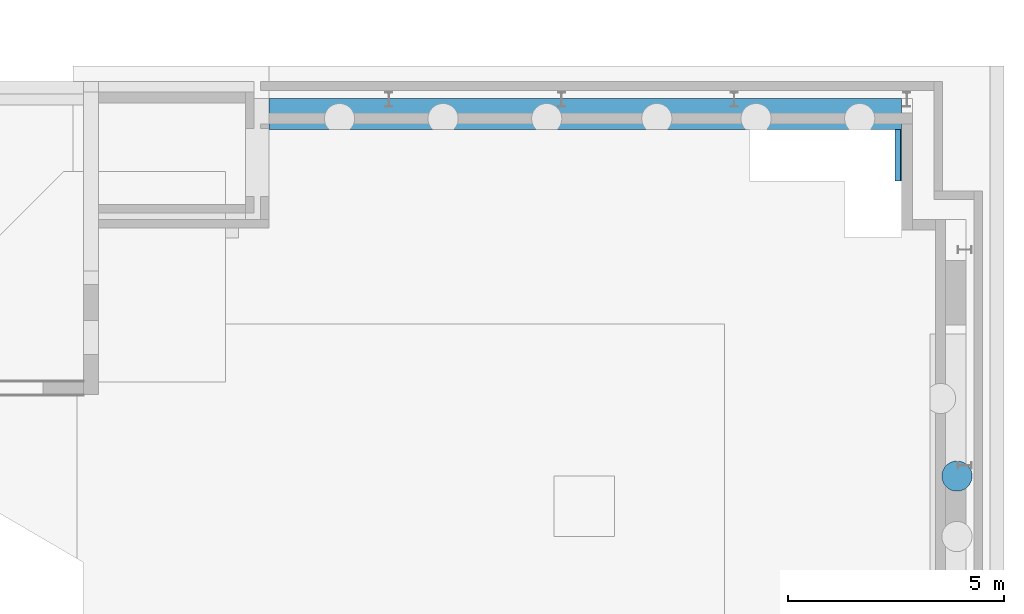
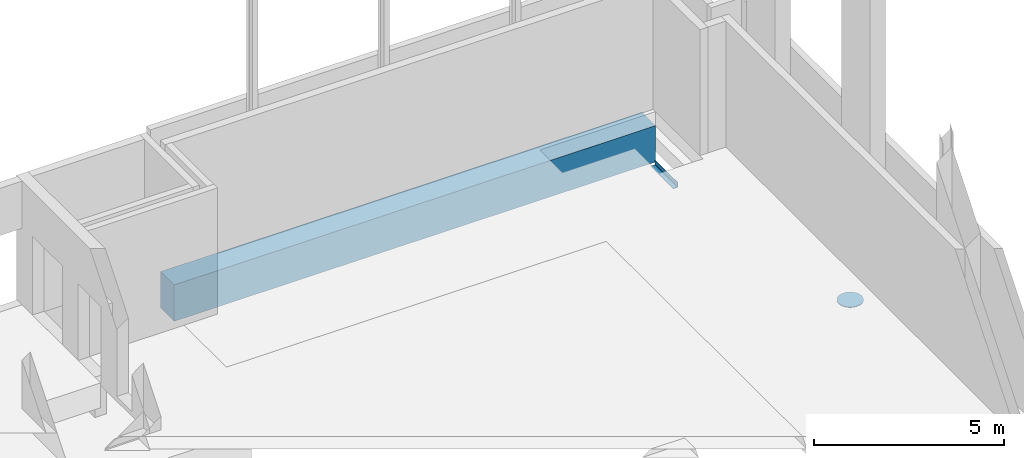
# One storey, part 18 of 34: 3 beams.
"""IFC2X3 building model written with IfcOpenShell, lengths in millimetres."""

from ifc_helpers import new_model, entity, si_unit, converted_unit, derived_unit, direction, frame, frame_2d, origin, origin_2d_with_axis, place, context, subcontext, project, spatial, polyline, circle_curve, parameter, trimmed, segment, composite_curve, rectangle, circle, outline, extrude, clip, halfspace, source, transform, mapped, material, type_object, type_shapes, element, save


model = new_model("IFC2X3")

# Units and contexts
model_context = context("Model", 3, precision=0.01, world=origin(), true_north=direction((6.12303176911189e-17, 1.0)))
body_context = subcontext(model_context, "Body", "Model", "MODEL_VIEW")
ifc_project = project(units=[si_unit("LENGTHUNIT", "METRE", prefix="MILLI"), si_unit("AREAUNIT", "SQUARE_METRE", prefix="MILLI"), si_unit("VOLUMEUNIT", "CUBIC_METRE"), converted_unit("PLANEANGLEUNIT", "DEGREE", entity("IfcRatioMeasure", 0.0174532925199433), si_unit("PLANEANGLEUNIT", "RADIAN"), dimensions=[0, 0, 0, 0, 0, 0, 0]), si_unit("MASSUNIT", "GRAM", prefix="KILO"), derived_unit("MASSDENSITYUNIT", [(si_unit("MASSUNIT", "GRAM", prefix="KILO"), 1), (si_unit("LENGTHUNIT", "METRE"), -3)]), derived_unit("MOMENTOFINERTIAUNIT", [(si_unit("LENGTHUNIT", "METRE"), 4)]), si_unit("TIMEUNIT", "SECOND"), si_unit("FREQUENCYUNIT", "HERTZ"), si_unit("THERMODYNAMICTEMPERATUREUNIT", "DEGREE_CELSIUS"), derived_unit("THERMALTRANSMITTANCEUNIT", [(si_unit("MASSUNIT", "GRAM", prefix="KILO"), 1), (si_unit("THERMODYNAMICTEMPERATUREUNIT", "KELVIN"), -1), (si_unit("TIMEUNIT", "SECOND"), -3)]), derived_unit("VOLUMETRICFLOWRATEUNIT", [(si_unit("LENGTHUNIT", "METRE"), 3), (si_unit("TIMEUNIT", "SECOND"), -1)]), si_unit("ELECTRICCURRENTUNIT", "AMPERE"), si_unit("ELECTRICVOLTAGEUNIT", "VOLT"), si_unit("POWERUNIT", "WATT"), si_unit("FORCEUNIT", "NEWTON", prefix="KILO"), si_unit("ILLUMINANCEUNIT", "LUX"), si_unit("LUMINOUSFLUXUNIT", "LUMEN"), si_unit("LUMINOUSINTENSITYUNIT", "CANDELA"), derived_unit("USERDEFINED", [(si_unit("MASSUNIT", "GRAM", prefix="KILO"), -1), (si_unit("LENGTHUNIT", "METRE"), -2), (si_unit("TIMEUNIT", "SECOND"), 3), (si_unit("LUMINOUSFLUXUNIT", "LUMEN"), 1)]), derived_unit("LINEARVELOCITYUNIT", [(si_unit("LENGTHUNIT", "METRE"), 1), (si_unit("TIMEUNIT", "SECOND"), -1)]), si_unit("PRESSUREUNIT", "PASCAL"), derived_unit("USERDEFINED", [(si_unit("LENGTHUNIT", "METRE"), -2), (si_unit("MASSUNIT", "GRAM", prefix="KILO"), 1), (si_unit("TIMEUNIT", "SECOND"), -2)]), derived_unit("LINEARFORCEUNIT", [(si_unit("MASSUNIT", "GRAM", prefix="KILO"), 1), (si_unit("LENGTHUNIT", "METRE"), 1), (si_unit("TIMEUNIT", "SECOND"), -2), (si_unit("LENGTHUNIT", "METRE"), -1)]), derived_unit("PLANARFORCEUNIT", [(si_unit("MASSUNIT", "GRAM", prefix="KILO"), 1), (si_unit("LENGTHUNIT", "METRE"), 1), (si_unit("TIMEUNIT", "SECOND"), -2), (si_unit("LENGTHUNIT", "METRE"), -2)])], contexts=[model_context])

# Site, building, storey
site_placement = place(None, origin())
site = spatial("IfcSite", under=ifc_project, at=site_placement, Name="Theater aan de Parade", CompositionType="ELEMENT")
building_placement = place(site_placement, origin())
building = spatial("IfcBuilding", under=site, at=building_placement, Name="Theater aan de Parade", CompositionType="ELEMENT")
storey_placement = place(building_placement, frame((0.0, 0.0, 3.49116848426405e-09)))
storey = spatial("IfcBuildingStorey", under=building, at=storey_placement, Name="00 begane grond", CompositionType="ELEMENT", Elevation=3.49116848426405e-09)

# Beams
ifc_material_1 = material(Name="00_PBT_MAT_staal_S355")
beam_type_1 = type_object("IfcBeamType", Name="28_PBT_SF_staal_L-profiel:S355_L150x150x15", PredefinedType="NOTDEFINED")
beam_1_placement = place(storey_placement, frame((86262.6683175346, 48697.0, -3.2561863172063e-09), z_axis=(0.0, 0.0, 1.0), x_axis=(0.0, -1.0, 0.0)))
element("IfcBeam", 1, at=beam_1_placement, inside=storey, type_object=beam_type_1, material=ifc_material_1, Name="28_PBT_SF_staal_L-profiel:S355_L150x150x15", ObjectType="28_PBT_SF_staal_L-profiel:S355_L150x150x15", context=body_context, shape_type="SweptSolid", body=[
    extrude(outline(composite_curve([segment(polyline([(49.6666666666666, -93.3333333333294), (56.6666666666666, -93.3333333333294)]), True, "CONTINUOUS"), segment(polyline([(56.6666666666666, -93.3333333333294), (56.6666666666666, 56.6666666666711)]), True, "CONTINUOUS"), segment(polyline([(56.6666666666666, 56.6666666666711), (-93.3333333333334, 56.6666666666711)]), True, "CONTINUOUS"), segment(polyline([(-93.3333333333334, 56.6666666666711), (-93.3333333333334, 49.6666666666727)]), True, "CONTINUOUS"), segment(trimmed(circle_curve(frame_2d((-85.3333333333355, 49.6666666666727), x_axis=(-1.0, 0.0)), 7.99999999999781), [parameter(0.0)], [parameter(90.0000000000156)], True, "PARAMETER"), True, "CONTINUOUS"), segment(polyline([(-85.3333333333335, 41.6666666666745), (25.6666666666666, 41.6666666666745)]), True, "CONTINUOUS"), segment(trimmed(circle_curve(frame_2d((25.6666666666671, 25.6666666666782), x_axis=(0.0, 1.0)), 15.9999999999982), [parameter(269.999999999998)], [parameter(0.0)], True, "PARAMETER"), False, "CONTINUOUS"), segment(polyline([(41.6666666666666, 25.6666666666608), (41.6666666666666, -85.3333333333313)]), True, "CONTINUOUS"), segment(trimmed(circle_curve(frame_2d((49.6666666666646, -85.3333333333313), x_axis=(-1.0, 0.0)), 7.99999999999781), [parameter(0.0)], [parameter(90.0000000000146)], True, "PARAMETER"), True, "CONTINUOUS")], self_intersect=False)), frame((0.0, -14.1666666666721, -773.333333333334), z_axis=(1.0, 0.0, 0.0), x_axis=(0.0, 0.0, -1.0)), (0.0, 0.0, 1.0), 1195.00000000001),
])
ifc_material_2 = material(Name="00_PBT_MAT_beton t.p.g._C30/37")
beam_type_2 = type_object("IfcBeamType", Name="28_PBT_SF_betonbalk:C30/37_715x1620", PredefinedType="NOTDEFINED")
beam_2_placement = place(storey_placement, frame((86430.1683175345, 48697.0, -3.02648312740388e-09), z_axis=(0.0, 0.0, 1.0), x_axis=(-1.0, 0.0, 0.0)))
element("IfcBeam", 2, at=beam_2_placement, inside=storey, type_object=beam_type_2, material=ifc_material_2, Name="28_PBT_SF_betonbalk:C30/37_715x1620", ObjectType="28_PBT_SF_betonbalk:C30/37_715x1620", context=body_context, shape_type="SweptSolid", body=[
    extrude(rectangle(XDim=1170.00000000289, YDim=715.000000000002, at=frame_2d((5.6843418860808e-14, -4.76347850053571e-11), x_axis=(1.0, 0.0))), frame((125.0, -357.500000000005, -155.0), z_axis=(1.0, 0.0, 0.0), x_axis=(0.0, 0.0, -1.0)), (0.0, 0.0, 1.0), 14648.1683175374),
])
beam_type_3 = type_object("IfcBeamType", Name="28_PBT_SF_staal_krans:28_PBT_SF_staal_krans_d=700_323.9", PredefinedType="BEAM", material=ifc_material_1)
shared_shape = source(origin(), body_context, "Body", "SweptSolid", [
    clip(extrude(rectangle(XDim=150.000000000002, YDim=15.0, at=frame_2d((-7.105427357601e-15, -4.44089209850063e-15), x_axis=(1.0, 0.0))), frame((-118.475000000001, -205.204719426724, -175.0), z_axis=(0.0, 0.0, 1.0), x_axis=(0.499999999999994, 0.866025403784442, 0.0)), (0.0, 0.0, 1.0), 149.999999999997), halfspace(frame((-162.470190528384, -266.406624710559, -75.0), z_axis=(-0.277350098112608, -0.480384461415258, -0.832050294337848), x_axis=(0.866025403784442, -0.499999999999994, 0.0)), False)),
    clip(extrude(rectangle(XDim=150.000000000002, YDim=15.0, at=origin_2d_with_axis()), frame((118.474999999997, 205.204719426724, -175.0), z_axis=(0.0, 0.0, 1.0), x_axis=(0.499999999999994, 0.866025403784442, 0.0)), (0.0, 0.0, 1.0), 149.999999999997), halfspace(frame((149.479809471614, 273.906624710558, -75.0), z_axis=(0.277350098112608, 0.480384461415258, -0.832050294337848), x_axis=(0.866025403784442, -0.499999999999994, 0.0)), False)),
    clip(extrude(rectangle(XDim=150.000000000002, YDim=15.0, at=frame_2d((2.1316282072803e-14, 3.99680288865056e-15), x_axis=(1.0, 0.0))), frame((-118.475, 205.204719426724, -175.0), z_axis=(0.0, 0.0, 1.0), x_axis=(-0.499999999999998, 0.86602540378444, 0.0)), (0.0, 0.0, 1.0), 149.999999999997), halfspace(frame((-162.470190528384, 266.406624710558, -75.0), z_axis=(-0.277350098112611, 0.480384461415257, -0.832050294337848), x_axis=(0.86602540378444, 0.499999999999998, 0.0)), False)),
    clip(extrude(rectangle(XDim=150.000000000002, YDim=15.0, at=frame_2d((-2.1316282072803e-14, 4.44089209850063e-15), x_axis=(1.0, 0.0))), frame((118.475, -205.204719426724, -175.0), z_axis=(0.0, 0.0, 1.0), x_axis=(-0.499999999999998, 0.86602540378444, 0.0)), (0.0, 0.0, 1.0), 149.999999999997), halfspace(frame((149.479809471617, -273.906624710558, -75.0), z_axis=(0.277350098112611, -0.480384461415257, -0.832050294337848), x_axis=(0.86602540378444, 0.499999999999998, 0.0)), False)),
    clip(extrude(rectangle(XDim=15.0, YDim=150.000000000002, at=frame_2d((0.0, -1.4210854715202e-14), x_axis=(1.0, 0.0))), frame((236.950000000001, 0.0, -175.0), z_axis=(0.0, 0.0, 1.0), x_axis=(0.0, -1.0, 0.0)), (0.0, 0.0, 1.0), 149.999999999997), halfspace(frame((311.950000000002, -7.5, -75.0), z_axis=(0.554700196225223, 0.0, -0.832050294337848), x_axis=(0.0, 1.0, 0.0)), False)),
    clip(extrude(rectangle(XDim=15.0, YDim=150.000000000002, at=frame_2d((0.0, 1.4210854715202e-14), x_axis=(1.0, 0.0))), frame((-236.950000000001, 0.0, -175.0), z_axis=(0.0, 0.0, 1.0), x_axis=(0.0, -1.0, 0.0)), (0.0, 0.0, 1.0), 149.999999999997), halfspace(frame((-311.950000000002, -7.5, -75.0), z_axis=(-0.554700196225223, 0.0, -0.832050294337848), x_axis=(0.0, 1.0, 0.0)), False)),
    extrude(circle(Radius=350.0, at=frame_2d((6.76791955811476e-14, 5.85105723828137e-13), x_axis=(1.0, 0.0))), frame((0.0, 0.0, -25.0), z_axis=(0.0, 0.0, 1.0), x_axis=(-1.0, 0.0, 0.0)), (0.0, 0.0, 1.0), 25.0),
])
type_shapes(beam_type_3, [shared_shape])
beam_3_placement = place(storey_placement, frame((87590.0, 40665.0, -740.0), z_axis=(0.0, 0.0, 1.0), x_axis=(-1.0, 0.0, 0.0)))
element("IfcBeam", 3, at=beam_3_placement, inside=storey, type_object=beam_type_3, material=ifc_material_1, Name="28_PBT_SF_staal_krans:28_PBT_SF_staal_krans_d=700_323.9", ObjectType="28_PBT_SF_staal_krans:28_PBT_SF_staal_krans_d=700_323.9", context=body_context, shape_type="MappedRepresentation", body=[
    mapped(shared_shape, transform((0.0, 0.0, 0.0), scale=1.0)),
])

save(model, "model.ifc")
